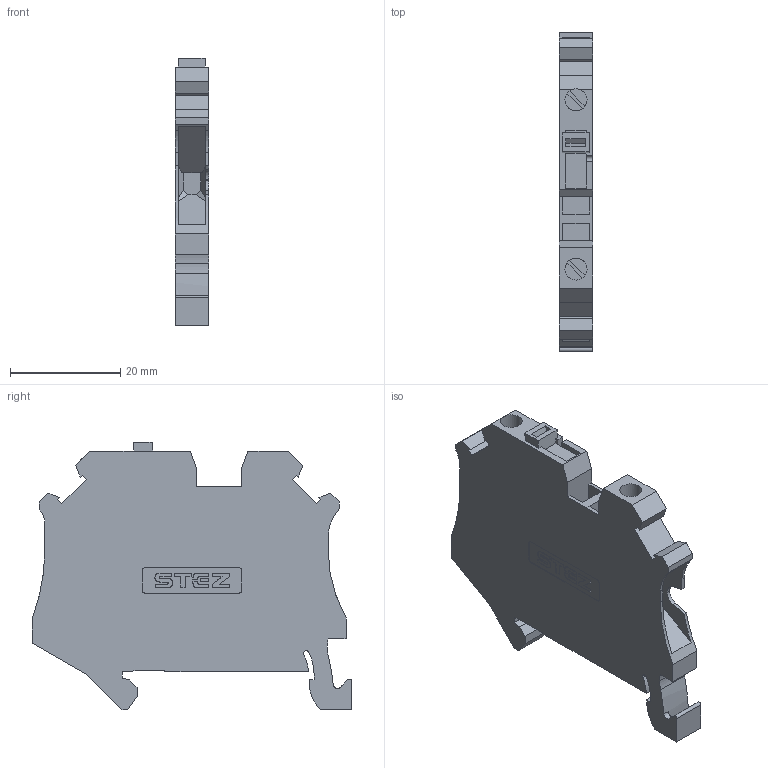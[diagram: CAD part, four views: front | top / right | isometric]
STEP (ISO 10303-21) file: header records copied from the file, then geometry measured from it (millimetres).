
FILE_DESCRIPTION(('TFLEX Exchange Step'),'2;1');
FILE_NAME('11200013_KHB_4-2-P3M-C.stp', '2024-03-13T16:02:33+03:00',('apanin'),('Unknown organisation'),'TFLEX Exchange 2023.2','T-FLEX CAD','Unknown authorisation');
FILE_SCHEMA( ('AUTOMOTIVE_DESIGN { 1 0 10303 214 1 1 1 1 }') );
Length unit declared in the file: millimetre
Products named in the file (1): Тело_1 - UT_4_MT-select:1
Bounding box: 6.15 x 57.8 x 48.45 mm (x, y, z)
Volume: 10935.9 mm3; surface area: 6730.1 mm2
Topology: 1 solids, 1 shells, 386 faces, 1115 edges, 740 vertices
Faces by surface type: plane 194, cylinder 192
Full cylindrical faces by diameter (mm): 4 x2
Entity records: 12861 total; most frequent: DIRECTION 2284, CARTESIAN_POINT 2248, ORIENTED_EDGE 2230, EDGE_CURVE 1115, AXIS2_PLACEMENT_3D 784, VERTEX_POINT 740, VECTOR 716, LINE 716
